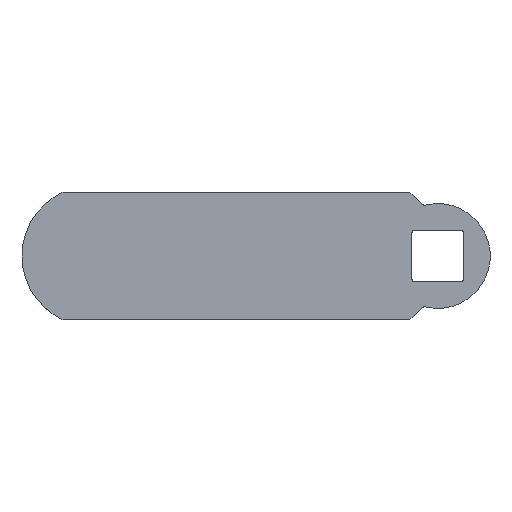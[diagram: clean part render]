
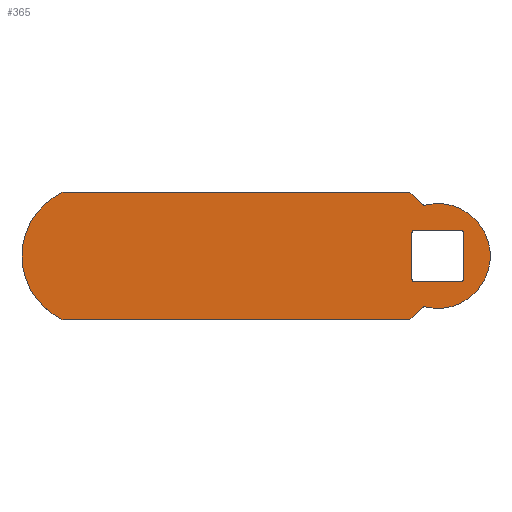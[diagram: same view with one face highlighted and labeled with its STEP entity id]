
A CAD part, top view. The second image highlights one B-rep face of the part: STEP entity #365.
In plain terms, the highlighted planar face has unit normal (0, 0, 1).
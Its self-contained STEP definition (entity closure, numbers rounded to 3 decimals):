
#1 = CARTESIAN_POINT ( 'NONE',  ( -4.343, -10., 2.3 ) ) ;
#2 = DIRECTION ( 'NONE',  ( 0., 0., 1. ) ) ;
#11 = DIRECTION ( 'NONE',  ( 0.707, 0.707, 0. ) ) ;
#16 = DIRECTION ( 'NONE',  ( 1., 0., 0. ) ) ;
#20 = DIRECTION ( 'NONE',  ( -0.707, 0.707, 0. ) ) ;
#21 = DIRECTION ( 'NONE',  ( 0., 0., -1. ) ) ;
#23 = CARTESIAN_POINT ( 'NONE',  ( -3.55, -3.55, 2.3 ) ) ;
#31 = DIRECTION ( 'NONE',  ( 0., 1., 0. ) ) ;
#33 = CARTESIAN_POINT ( 'NONE',  ( -4.343, 10., 2.3 ) ) ;
#41 = CARTESIAN_POINT ( 'NONE',  ( -54., 0., 2.3 ) ) ;
#42 = DIRECTION ( 'NONE',  ( 1., 0., 0. ) ) ;
#51 = DIRECTION ( 'NONE',  ( 0., 0., 1. ) ) ;
#59 = DIRECTION ( 'NONE',  ( 1., 0., 0. ) ) ;
#67 = DIRECTION ( 'NONE',  ( 0., 0., -1. ) ) ;
#71 = DIRECTION ( 'NONE',  ( -1., 0., 0. ) ) ;
#85 = DIRECTION ( 'NONE',  ( 1., 0., 0. ) ) ;
#87 = CARTESIAN_POINT ( 'NONE',  ( -2.083, 8.447, 2.3 ) ) ;
#96 = CARTESIAN_POINT ( 'NONE',  ( 4.05, 4.05, 2.3 ) ) ;
#119 = PLANE ( 'NONE',  #276 ) ;
#126 = CARTESIAN_POINT ( 'NONE',  ( -4.05, 4.05, 2.3 ) ) ;
#127 = CARTESIAN_POINT ( 'NONE',  ( -58.583, -10., 2.3 ) ) ;
#130 = CARTESIAN_POINT ( 'NONE',  ( -54., 0., 2.3 ) ) ;
#131 = DIRECTION ( 'NONE',  ( 1., 0., 0. ) ) ;
#148 = CIRCLE ( 'NONE', #286, 11. ) ;
#149 = LINE ( 'NONE', #126, #248 ) ;
#163 = LINE ( 'NONE', #404, #209 ) ;
#166 = FACE_OUTER_BOUND ( 'NONE', #465, .T. ) ;
#169 = VECTOR ( 'NONE', #31, 1000. ) ;
#171 = LINE ( 'NONE', #1, #235 ) ;
#172 = CIRCLE ( 'NONE', #290, 0.5 ) ;
#173 = CIRCLE ( 'NONE', #288, 0.5 ) ;
#185 = CIRCLE ( 'NONE', #289, 0.5 ) ;
#199 = LINE ( 'NONE', #385, #218 ) ;
#206 = CIRCLE ( 'NONE', #291, 0.5 ) ;
#209 = VECTOR ( 'NONE', #400, 1000. ) ;
#216 = LINE ( 'NONE', #96, #169 ) ;
#218 = VECTOR ( 'NONE', #383, 1000. ) ;
#220 = FACE_BOUND ( 'NONE', #453, .T. ) ;
#235 = VECTOR ( 'NONE', #11, 1000. ) ;
#238 = VECTOR ( 'NONE', #20, 1000. ) ;
#241 = CIRCLE ( 'NONE', #313, 0.5 ) ;
#243 = VECTOR ( 'NONE', #42, 1000. ) ;
#246 = CIRCLE ( 'NONE', #282, 0.5 ) ;
#248 = VECTOR ( 'NONE', #71, 1000. ) ;
#254 = LINE ( 'NONE', #127, #243 ) ;
#258 = LINE ( 'NONE', #382, #238 ) ;
#274 = EDGE_CURVE ( 'NONE', #480, #485, #445, .T. ) ;
#276 = AXIS2_PLACEMENT_3D ( 'NONE', #41, #2, #85 ) ;
#282 = AXIS2_PLACEMENT_3D ( 'NONE', #87, #21, #59 ) ;
#286 = AXIS2_PLACEMENT_3D ( 'NONE', #130, #51, #16 ) ;
#288 = AXIS2_PLACEMENT_3D ( 'NONE', #23, #67, #131 ) ;
#289 = AXIS2_PLACEMENT_3D ( 'NONE', #390, #388, #387 ) ;
#290 = AXIS2_PLACEMENT_3D ( 'NONE', #396, #395, #393 ) ;
#291 = AXIS2_PLACEMENT_3D ( 'NONE', #410, #409, #408 ) ;
#292 = EDGE_CURVE ( 'NONE', #491, #467, #529, .T. ) ;
#294 = EDGE_CURVE ( 'NONE', #500, #496, #443, .T. ) ;
#296 = AXIS2_PLACEMENT_3D ( 'NONE', #397, #403, #398 ) ;
#298 = EDGE_CURVE ( 'NONE', #497, #485, #241, .T. ) ;
#305 = EDGE_CURVE ( 'NONE', #499, #495, #206, .T. ) ;
#308 = AXIS2_PLACEMENT_3D ( 'NONE', #419, #405, #418 ) ;
#310 = EDGE_CURVE ( 'NONE', #475, #500, #172, .T. ) ;
#312 = EDGE_CURVE ( 'NONE', #474, #478, #185, .T. ) ;
#313 = AXIS2_PLACEMENT_3D ( 'NONE', #433, #432, #431 ) ;
#314 = EDGE_CURVE ( 'NONE', #469, #491, #163, .T. ) ;
#316 = EDGE_CURVE ( 'NONE', #499, #494, #199, .T. ) ;
#317 = EDGE_CURVE ( 'NONE', #480, #494, #173, .T. ) ;
#320 = EDGE_CURVE ( 'NONE', #471, #469, #258, .T. ) ;
#322 = EDGE_CURVE ( 'NONE', #467, #488, #148, .T. ) ;
#327 = EDGE_CURVE ( 'NONE', #481, #475, #171, .T. ) ;
#334 = EDGE_CURVE ( 'NONE', #497, #478, #216, .T. ) ;
#337 = EDGE_CURVE ( 'NONE', #496, #471, #246, .T. ) ;
#342 = EDGE_CURVE ( 'NONE', #488, #481, #254, .T. ) ;
#343 = EDGE_CURVE ( 'NONE', #474, #495, #149, .T. ) ;
#365 = ADVANCED_FACE ( 'NONE', ( #166, #220 ), #119, .T. ) ;
#382 = CARTESIAN_POINT ( 'NONE',  ( -4.343, 10., 2.3 ) ) ;
#383 = DIRECTION ( 'NONE',  ( 0., -1., 0. ) ) ;
#384 = DIRECTION ( 'NONE',  ( 1., 0., 0. ) ) ;
#385 = CARTESIAN_POINT ( 'NONE',  ( -4.05, 4.05, 2.3 ) ) ;
#387 = DIRECTION ( 'NONE',  ( 1., 0., 0. ) ) ;
#388 = DIRECTION ( 'NONE',  ( 0., 0., -1. ) ) ;
#390 = CARTESIAN_POINT ( 'NONE',  ( 3.55, 3.55, 2.3 ) ) ;
#393 = DIRECTION ( 'NONE',  ( 1., 0., 0. ) ) ;
#395 = DIRECTION ( 'NONE',  ( 0., 0., -1. ) ) ;
#396 = CARTESIAN_POINT ( 'NONE',  ( -2.083, -8.447, 2.3 ) ) ;
#397 = CARTESIAN_POINT ( 'NONE',  ( -54., 0., 2.3 ) ) ;
#398 = DIRECTION ( 'NONE',  ( 1., 0., 0. ) ) ;
#400 = DIRECTION ( 'NONE',  ( -1., 0., 0. ) ) ;
#403 = DIRECTION ( 'NONE',  ( 0., 0., 1. ) ) ;
#404 = CARTESIAN_POINT ( 'NONE',  ( -58.583, 10., 2.3 ) ) ;
#405 = DIRECTION ( 'NONE',  ( 0., 0., 1. ) ) ;
#408 = DIRECTION ( 'NONE',  ( 1., 0., 0. ) ) ;
#409 = DIRECTION ( 'NONE',  ( 0., 0., -1. ) ) ;
#410 = CARTESIAN_POINT ( 'NONE',  ( -3.55, 3.55, 2.3 ) ) ;
#415 = CARTESIAN_POINT ( 'NONE',  ( -4.05, -4.05, 2.3 ) ) ;
#418 = DIRECTION ( 'NONE',  ( 1., 0., 0. ) ) ;
#419 = CARTESIAN_POINT ( 'NONE',  ( 0., 0., 2.3 ) ) ;
#431 = DIRECTION ( 'NONE',  ( 1., 0., 0. ) ) ;
#432 = DIRECTION ( 'NONE',  ( 0., 0., -1. ) ) ;
#433 = CARTESIAN_POINT ( 'NONE',  ( 3.55, -3.55, 2.3 ) ) ;
#443 = CIRCLE ( 'NONE', #308, 8.2 ) ;
#444 = VECTOR ( 'NONE', #384, 1000. ) ;
#445 = LINE ( 'NONE', #415, #444 ) ;
#453 = EDGE_LOOP ( 'NONE', ( #575, #550, #560, #512, #566, #591, #589, #563 ) ) ;
#465 = EDGE_LOOP ( 'NONE', ( #568, #562, #546, #600, #501, #542, #583, #579, #597 ) ) ;
#467 = VERTEX_POINT ( 'NONE', #609 ) ;
#469 = VERTEX_POINT ( 'NONE', #33 ) ;
#471 = VERTEX_POINT ( 'NONE', #611 ) ;
#474 = VERTEX_POINT ( 'NONE', #618 ) ;
#475 = VERTEX_POINT ( 'NONE', #641 ) ;
#478 = VERTEX_POINT ( 'NONE', #637 ) ;
#480 = VERTEX_POINT ( 'NONE', #636 ) ;
#481 = VERTEX_POINT ( 'NONE', #644 ) ;
#485 = VERTEX_POINT ( 'NONE', #632 ) ;
#488 = VERTEX_POINT ( 'NONE', #607 ) ;
#491 = VERTEX_POINT ( 'NONE', #623 ) ;
#494 = VERTEX_POINT ( 'NONE', #629 ) ;
#495 = VERTEX_POINT ( 'NONE', #613 ) ;
#496 = VERTEX_POINT ( 'NONE', #627 ) ;
#497 = VERTEX_POINT ( 'NONE', #638 ) ;
#499 = VERTEX_POINT ( 'NONE', #634 ) ;
#500 = VERTEX_POINT ( 'NONE', #606 ) ;
#501 = ORIENTED_EDGE ( 'NONE', *, *, #310, .T. ) ;
#512 = ORIENTED_EDGE ( 'NONE', *, *, #305, .T. ) ;
#529 = CIRCLE ( 'NONE', #296, 11. ) ;
#542 = ORIENTED_EDGE ( 'NONE', *, *, #294, .T. ) ;
#546 = ORIENTED_EDGE ( 'NONE', *, *, #342, .T. ) ;
#550 = ORIENTED_EDGE ( 'NONE', *, *, #317, .T. ) ;
#560 = ORIENTED_EDGE ( 'NONE', *, *, #316, .F. ) ;
#562 = ORIENTED_EDGE ( 'NONE', *, *, #322, .T. ) ;
#563 = ORIENTED_EDGE ( 'NONE', *, *, #298, .T. ) ;
#566 = ORIENTED_EDGE ( 'NONE', *, *, #343, .F. ) ;
#568 = ORIENTED_EDGE ( 'NONE', *, *, #292, .T. ) ;
#575 = ORIENTED_EDGE ( 'NONE', *, *, #274, .F. ) ;
#579 = ORIENTED_EDGE ( 'NONE', *, *, #320, .T. ) ;
#583 = ORIENTED_EDGE ( 'NONE', *, *, #337, .T. ) ;
#589 = ORIENTED_EDGE ( 'NONE', *, *, #334, .F. ) ;
#591 = ORIENTED_EDGE ( 'NONE', *, *, #312, .T. ) ;
#597 = ORIENTED_EDGE ( 'NONE', *, *, #314, .T. ) ;
#600 = ORIENTED_EDGE ( 'NONE', *, *, #327, .T. ) ;
#606 = CARTESIAN_POINT ( 'NONE',  ( -1.963, -7.962, 2.3 ) ) ;
#607 = CARTESIAN_POINT ( 'NONE',  ( -58.583, -10., 2.3 ) ) ;
#609 = CARTESIAN_POINT ( 'NONE',  ( -65., 0., 2.3 ) ) ;
#611 = CARTESIAN_POINT ( 'NONE',  ( -2.437, 8.093, 2.3 ) ) ;
#613 = CARTESIAN_POINT ( 'NONE',  ( -3.55, 4.05, 2.3 ) ) ;
#618 = CARTESIAN_POINT ( 'NONE',  ( 3.55, 4.05, 2.3 ) ) ;
#623 = CARTESIAN_POINT ( 'NONE',  ( -58.583, 10., 2.3 ) ) ;
#627 = CARTESIAN_POINT ( 'NONE',  ( -1.963, 7.962, 2.3 ) ) ;
#629 = CARTESIAN_POINT ( 'NONE',  ( -4.05, -3.55, 2.3 ) ) ;
#632 = CARTESIAN_POINT ( 'NONE',  ( 3.55, -4.05, 2.3 ) ) ;
#634 = CARTESIAN_POINT ( 'NONE',  ( -4.05, 3.55, 2.3 ) ) ;
#636 = CARTESIAN_POINT ( 'NONE',  ( -3.55, -4.05, 2.3 ) ) ;
#637 = CARTESIAN_POINT ( 'NONE',  ( 4.05, 3.55, 2.3 ) ) ;
#638 = CARTESIAN_POINT ( 'NONE',  ( 4.05, -3.55, 2.3 ) ) ;
#641 = CARTESIAN_POINT ( 'NONE',  ( -2.437, -8.093, 2.3 ) ) ;
#644 = CARTESIAN_POINT ( 'NONE',  ( -4.343, -10., 2.3 ) ) ;
